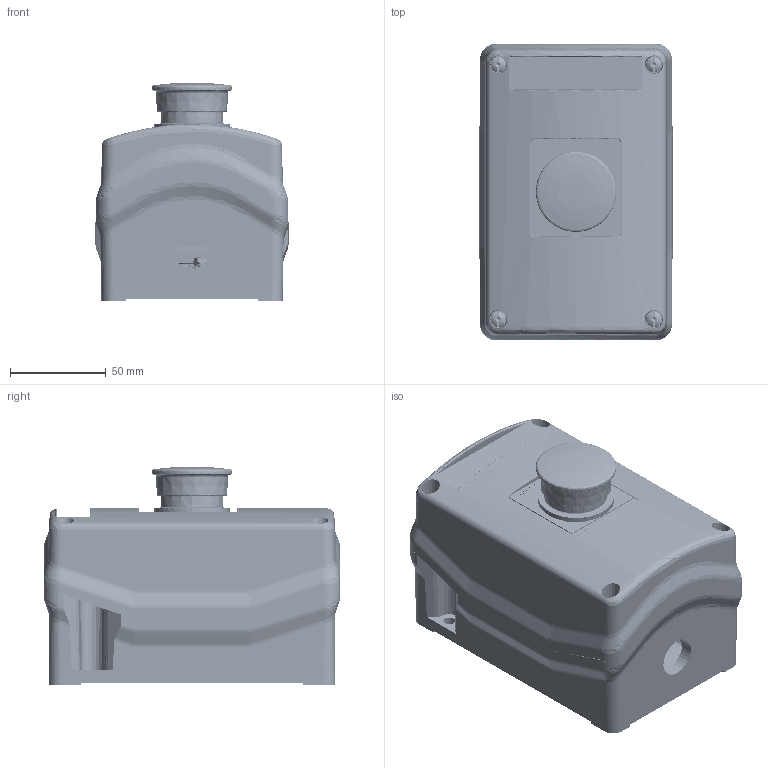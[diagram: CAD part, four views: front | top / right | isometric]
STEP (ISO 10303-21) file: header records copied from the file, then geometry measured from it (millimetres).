
FILE_DESCRIPTION (( 'STEP AP214' ), '1' );
FILE_NAME ('HLSW-SS-PB20-ES.STEP', '2019-05-09T22:32:43', ( '' ), ( '' ), 'SwSTEP 2.0', 'SolidWorks 2016', '' );
FILE_SCHEMA (( 'AUTOMOTIVE_DESIGN' ));
Length unit declared in the file: inch
Products named in the file (24): 23399-1-ETO; 23194BAAB.10B3A46C38FF195540E58D45FFFCB610; 23225TAAB; HKH1NC20D-ETO; HKH1NO20D-ETO; HLSW-SS-PB20-ES; Red Push Pull Insert Cap; Insert Screw; Red Push Pull Insert; Bushing Mounting Screw; Pin; Push Pull Bushing; Plunger Head Screw; Plunger Head Screw Cover Cap; Plunger Head; Push Pull Maintained Plunger; Push Pull Maintained Housing; Actuator Nut; 23203ABAB-ETO; Operator_1_Assembly.00BE9323CE5BBA2DB77C8E220AD794BD; 23222AAAB-ETO; Spacer Actuator Assembly; 23197KBAM.D4B8AA388FA8AA3496514457D5648455; 23399-ETO
Assembly tree (28 placements, depth 4):
  HLSW-SS-PB20-ES
    23194BAAB.10B3A46C38FF195540E58D45FFFCB610
    23197KBAM.D4B8AA388FA8AA3496514457D5648455
    23222AAAB-ETO  x4
    23203ABAB-ETO
    Operator_1_Assembly.00BE9323CE5BBA2DB77C8E220AD794BD
      Actuator Nut
      Push Pull Maintained Housing
      Push Pull Maintained Plunger
      Plunger Head
      Plunger Head Screw Cover Cap
      Plunger Head Screw
      Push Pull Bushing
      Pin
      Bushing Mounting Screw  x3
      Red Push Pull Insert
      Insert Screw
      Red Push Pull Insert Cap
      HKH1NO20D-ETO
      HKH1NC20D-ETO
      23225TAAB
      Spacer Actuator Assembly
        23399-1-ETO
        23399-ETO
Bounding box: 100.74 x 154.43 x 113.75 mm (x, y, z)
Volume: 522245.8 mm3; surface area: 247575.5 mm2
Topology: 82 solids, 100 shells, 13640 faces, 35027 edges, 21509 vertices
Faces by surface type: cylinder 4422, plane 4087, bspline 4050, cone 945, torus 136
Full cylindrical faces by diameter (mm): 28.526 x1, 30 x1
Entity records: 749439 total; most frequent: CARTESIAN_POINT 297844, ORIENTED_EDGE 67607, DIRECTION 48629, EDGE_CURVE 33816, VERTEX_POINT 20977, AXIS2_PLACEMENT_3D 17270, LINE 14089, VECTOR 14089
